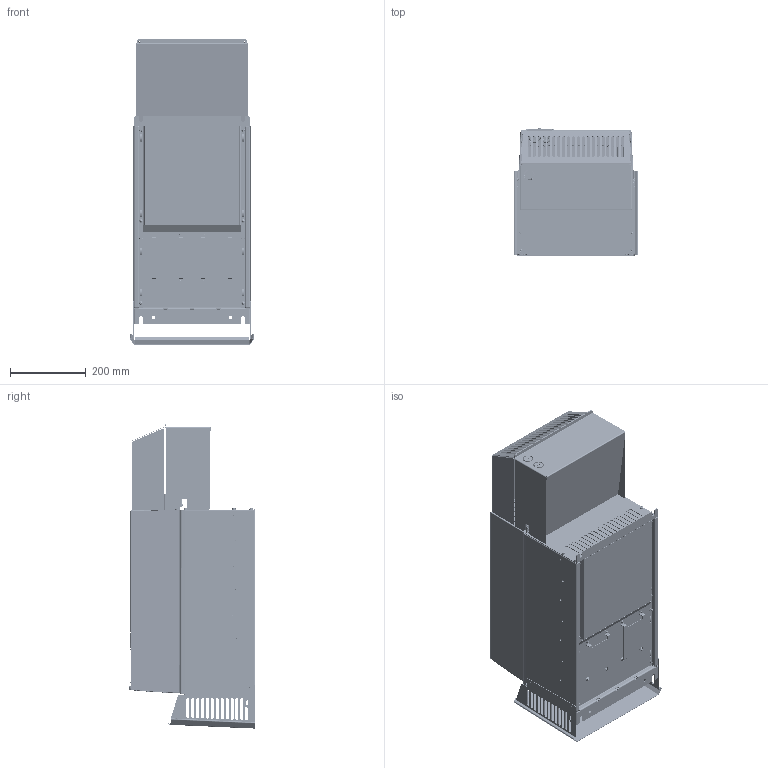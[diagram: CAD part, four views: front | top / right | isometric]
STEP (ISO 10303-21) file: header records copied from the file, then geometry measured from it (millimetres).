
FILE_DESCRIPTION((''),'2;1');
FILE_NAME('IGS','2012-11-20T',('u255134'),('Danfoss Power Electronics'),'PRO/ENGINEER BY PARAMETRIC TECHNOLOGY CORPORATION, 2011490','PRO/ENGINEER BY PARAMETRIC TECHNOLOGY CORPORATION, 2011490','');
FILE_SCHEMA(('CONFIG_CONTROL_DESIGN', 'GEOMETRIC_VALIDATION_PROPERTIES_MIM'));
Products named in the file (1): IGS
Bounding box: 329 x 335.69 x 806.99 mm (x, y, z)
Volume: 523642.2 mm3; surface area: 1955617.7 mm2
Topology: 28 solids, 30 shells, 6744 faces, 18742 edges, 12221 vertices
Faces by surface type: plane 3714, cylinder 1880, cone 360, torus 335, bspline 236, extrusion 132, sphere 87
Entity records: 234934 total; most frequent: CARTESIAN_POINT 65524, ORIENTED_EDGE 37180, DIRECTION 32474, EDGE_CURVE 18607, VERTEX_POINT 12220, VECTOR 11400, LINE 11268, AXIS2_PLACEMENT_3D 10537
